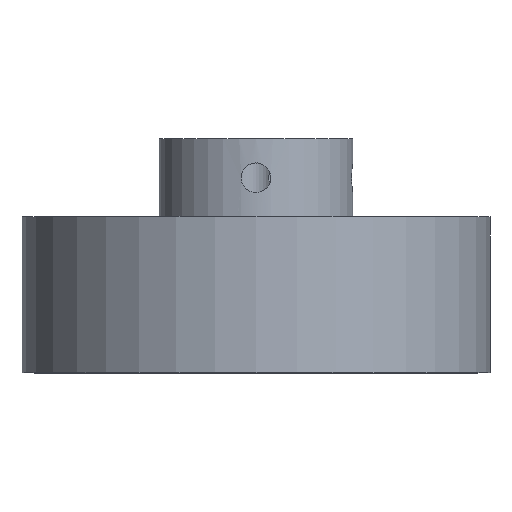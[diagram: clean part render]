
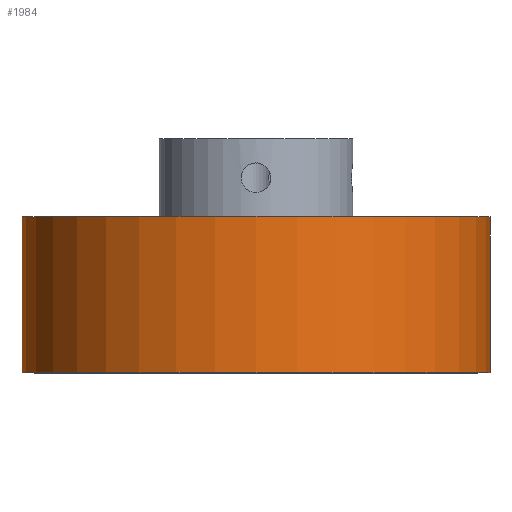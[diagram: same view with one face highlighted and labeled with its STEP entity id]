
A CAD part, top view. The second image highlights one B-rep face of the part: STEP entity #1984.
In plain terms, the highlighted cylindrical face has radius 38.1 mm (diameter 76.2 mm), a full revolution.
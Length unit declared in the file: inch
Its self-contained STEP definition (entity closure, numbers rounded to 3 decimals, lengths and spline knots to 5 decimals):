
#270=FACE_OUTER_BOUND('',#364,.T.);
#364=EDGE_LOOP('',(#1623,#1624,#1625,#1626));
#549=LINE('',#3325,#695);
#695=VECTOR('',#2775,1.5);
#814=CIRCLE('',#2214,1.5);
#815=CIRCLE('',#2215,1.5);
#990=VERTEX_POINT('',#3322);
#991=VERTEX_POINT('',#3324);
#1261=EDGE_CURVE('',#990,#990,#814,.T.);
#1262=EDGE_CURVE('',#990,#991,#549,.T.);
#1263=EDGE_CURVE('',#991,#991,#815,.T.);
#1623=ORIENTED_EDGE('',*,*,#1261,.F.);
#1624=ORIENTED_EDGE('',*,*,#1262,.T.);
#1625=ORIENTED_EDGE('',*,*,#1263,.T.);
#1626=ORIENTED_EDGE('',*,*,#1262,.F.);
#1894=CYLINDRICAL_SURFACE('',#2213,1.5);
#1984=ADVANCED_FACE('',(#270),#1894,.T.);
#2213=AXIS2_PLACEMENT_3D('',#3321,#2771,#2772);
#2214=AXIS2_PLACEMENT_3D('',#3323,#2773,#2774);
#2215=AXIS2_PLACEMENT_3D('',#3326,#2776,#2777);
#2771=DIRECTION('center_axis',(0.,1.,0.));
#2772=DIRECTION('ref_axis',(-1.,0.,0.));
#2773=DIRECTION('center_axis',(0.,1.,0.));
#2774=DIRECTION('ref_axis',(-1.,0.,0.));
#2775=DIRECTION('',(0.,-1.,0.));
#2776=DIRECTION('center_axis',(0.,1.,0.));
#2777=DIRECTION('ref_axis',(-1.,0.,0.));
#3321=CARTESIAN_POINT('Origin',(0.,0.,0.));
#3322=CARTESIAN_POINT('',(1.5,1.,0.));
#3323=CARTESIAN_POINT('Origin',(0.,1.,0.));
#3324=CARTESIAN_POINT('',(1.5,0.,0.));
#3325=CARTESIAN_POINT('',(1.5,0.,0.));
#3326=CARTESIAN_POINT('Origin',(0.,0.,0.));
